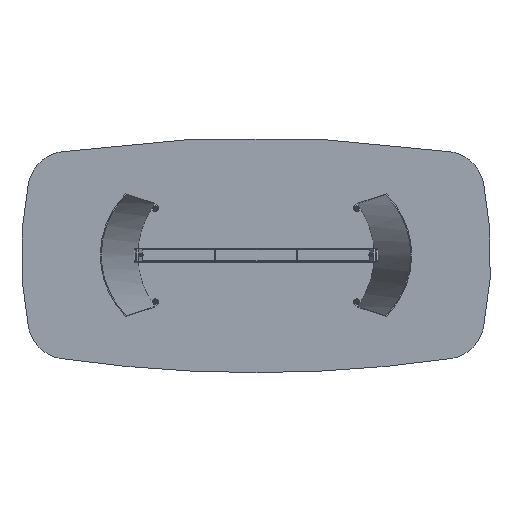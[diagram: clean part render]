
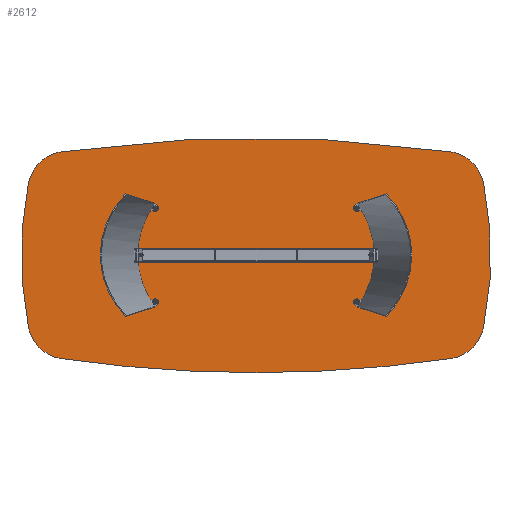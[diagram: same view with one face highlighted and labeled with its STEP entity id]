
A CAD part, front view. The second image highlights one B-rep face of the part: STEP entity #2612.
In plain terms, the highlighted planar face has unit normal (0, -1, 0).
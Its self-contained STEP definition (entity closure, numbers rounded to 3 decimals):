
#70 = AXIS2_PLACEMENT_3D ( 'NONE', #5374, #536, #6113 ) ;
#281 = DIRECTION ( 'NONE',  ( 0., 0., 1. ) ) ;
#326 = CARTESIAN_POINT ( 'NONE',  ( -645., 0., 0. ) ) ;
#413 = CARTESIAN_POINT ( 'NONE',  ( -1162.39, 0., 370.629 ) ) ;
#436 = DIRECTION ( 'NONE',  ( 0., 1., 0. ) ) ;
#489 = ORIENTED_EDGE ( 'NONE', *, *, #4711, .T. ) ;
#522 = CIRCLE ( 'NONE', #8630, 200. ) ;
#536 = DIRECTION ( 'NONE',  ( 0., 1., 0. ) ) ;
#926 = DIRECTION ( 'NONE',  ( 0., 0., 1. ) ) ;
#983 = VERTEX_POINT ( 'NONE', #3803 ) ;
#1033 = DIRECTION ( 'NONE',  ( 0., 0., 1. ) ) ;
#1042 = DIRECTION ( 'NONE',  ( 0., 0., 1. ) ) ;
#1065 = ORIENTED_EDGE ( 'NONE', *, *, #8817, .T. ) ;
#1173 = DIRECTION ( 'NONE',  ( 0., 0., 1. ) ) ;
#1217 = CIRCLE ( 'NONE', #3857, 200. ) ;
#1601 = CARTESIAN_POINT ( 'NONE',  ( -1162.39, 0., -370.629 ) ) ;
#1681 = AXIS2_PLACEMENT_3D ( 'NONE', #10062, #2165, #5337 ) ;
#1726 = CARTESIAN_POINT ( 'NONE',  ( 966.467, 0., -330.452 ) ) ;
#1903 = CARTESIAN_POINT ( 'NONE',  ( -995.103, 0., -528.391 ) ) ;
#1922 = CARTESIAN_POINT ( 'NONE',  ( 966.467, 0., 330.452 ) ) ;
#1960 = DIRECTION ( 'NONE',  ( 0., -1., 0. ) ) ;
#2099 = ORIENTED_EDGE ( 'NONE', *, *, #10095, .F. ) ;
#2162 = ORIENTED_EDGE ( 'NONE', *, *, #8064, .F. ) ;
#2165 = DIRECTION ( 'NONE',  ( 0., 1., 0. ) ) ;
#2403 = ORIENTED_EDGE ( 'NONE', *, *, #6293, .T. ) ;
#2460 = ORIENTED_EDGE ( 'NONE', *, *, #3620, .T. ) ;
#2612 = ADVANCED_FACE ( 'NONE', ( #9826 ), #5415, .F. ) ;
#2669 = EDGE_LOOP ( 'NONE', ( #10073, #2403, #2099, #489, #9319, #7458, #1065, #2162, #2460 ) ) ;
#3340 = CIRCLE ( 'NONE', #4158, 6950. ) ;
#3370 = AXIS2_PLACEMENT_3D ( 'NONE', #326, #3498, #281 ) ;
#3498 = DIRECTION ( 'NONE',  ( 0., 1., 0. ) ) ;
#3499 = AXIS2_PLACEMENT_3D ( 'NONE', #9083, #9703, #1033 ) ;
#3587 = EDGE_CURVE ( 'NONE', #8224, #8853, #3660, .T. ) ;
#3620 = EDGE_CURVE ( 'NONE', #6600, #8853, #8963, .T. ) ;
#3660 = CIRCLE ( 'NONE', #3499, 6950. ) ;
#3700 = CIRCLE ( 'NONE', #6204, 200. ) ;
#3803 = CARTESIAN_POINT ( 'NONE',  ( 1162.39, 0., -370.629 ) ) ;
#3857 = AXIS2_PLACEMENT_3D ( 'NONE', #6660, #7490, #7547 ) ;
#3863 = EDGE_CURVE ( 'NONE', #9868, #3895, #9796, .T. ) ;
#3895 = VERTEX_POINT ( 'NONE', #5447 ) ;
#4144 = EDGE_CURVE ( 'NONE', #3895, #9877, #3340, .T. ) ;
#4155 = AXIS2_PLACEMENT_3D ( 'NONE', #1922, #8243, #8193 ) ;
#4158 = AXIS2_PLACEMENT_3D ( 'NONE', #8030, #5803, #926 ) ;
#4711 = EDGE_CURVE ( 'NONE', #5528, #9877, #1217, .T. ) ;
#5014 = CARTESIAN_POINT ( 'NONE',  ( -966.467, 0., 330.452 ) ) ;
#5132 = VERTEX_POINT ( 'NONE', #413 ) ;
#5337 = DIRECTION ( 'NONE',  ( 0., 0., 1. ) ) ;
#5374 = CARTESIAN_POINT ( 'NONE',  ( 645., 0., 0. ) ) ;
#5415 = PLANE ( 'NONE',  #9454 ) ;
#5447 = CARTESIAN_POINT ( 'NONE',  ( 0., 0., -600. ) ) ;
#5528 = VERTEX_POINT ( 'NONE', #1601 ) ;
#5803 = DIRECTION ( 'NONE',  ( 0., 1., 0. ) ) ;
#5852 = CARTESIAN_POINT ( 'NONE',  ( 995.103, 0., -528.391 ) ) ;
#6113 = DIRECTION ( 'NONE',  ( 0., 0., 1. ) ) ;
#6204 = AXIS2_PLACEMENT_3D ( 'NONE', #1726, #8884, #1042 ) ;
#6293 = EDGE_CURVE ( 'NONE', #8224, #5132, #522, .T. ) ;
#6600 = VERTEX_POINT ( 'NONE', #7200 ) ;
#6660 = CARTESIAN_POINT ( 'NONE',  ( -966.467, 0., -330.452 ) ) ;
#7200 = CARTESIAN_POINT ( 'NONE',  ( 1162.39, 0., 370.629 ) ) ;
#7336 = CARTESIAN_POINT ( 'NONE',  ( 995.103, 0., 528.391 ) ) ;
#7454 = DIRECTION ( 'NONE',  ( 0., 0., 1. ) ) ;
#7458 = ORIENTED_EDGE ( 'NONE', *, *, #3863, .F. ) ;
#7490 = DIRECTION ( 'NONE',  ( 0., -1., 0. ) ) ;
#7547 = DIRECTION ( 'NONE',  ( 0., 0., 1. ) ) ;
#7561 = CARTESIAN_POINT ( 'NONE',  ( -322.5, 0., 3175. ) ) ;
#8030 = CARTESIAN_POINT ( 'NONE',  ( 0., 0., 6350. ) ) ;
#8064 = EDGE_CURVE ( 'NONE', #6600, #983, #8168, .T. ) ;
#8168 = CIRCLE ( 'NONE', #3370, 1845. ) ;
#8193 = DIRECTION ( 'NONE',  ( 0., 0., 1. ) ) ;
#8224 = VERTEX_POINT ( 'NONE', #9770 ) ;
#8243 = DIRECTION ( 'NONE',  ( 0., -1., 0. ) ) ;
#8630 = AXIS2_PLACEMENT_3D ( 'NONE', #5014, #1960, #1173 ) ;
#8817 = EDGE_CURVE ( 'NONE', #9868, #983, #3700, .T. ) ;
#8853 = VERTEX_POINT ( 'NONE', #7336 ) ;
#8884 = DIRECTION ( 'NONE',  ( 0., -1., 0. ) ) ;
#8963 = CIRCLE ( 'NONE', #4155, 200. ) ;
#9083 = CARTESIAN_POINT ( 'NONE',  ( 0., 0., -6350. ) ) ;
#9319 = ORIENTED_EDGE ( 'NONE', *, *, #4144, .F. ) ;
#9454 = AXIS2_PLACEMENT_3D ( 'NONE', #7561, #436, #7454 ) ;
#9694 = CIRCLE ( 'NONE', #70, 1845. ) ;
#9703 = DIRECTION ( 'NONE',  ( 0., 1., 0. ) ) ;
#9770 = CARTESIAN_POINT ( 'NONE',  ( -995.103, 0., 528.391 ) ) ;
#9796 = CIRCLE ( 'NONE', #1681, 6950. ) ;
#9826 = FACE_OUTER_BOUND ( 'NONE', #2669, .T. ) ;
#9868 = VERTEX_POINT ( 'NONE', #5852 ) ;
#9877 = VERTEX_POINT ( 'NONE', #1903 ) ;
#10062 = CARTESIAN_POINT ( 'NONE',  ( 0., 0., 6350. ) ) ;
#10073 = ORIENTED_EDGE ( 'NONE', *, *, #3587, .F. ) ;
#10095 = EDGE_CURVE ( 'NONE', #5528, #5132, #9694, .T. ) ;
